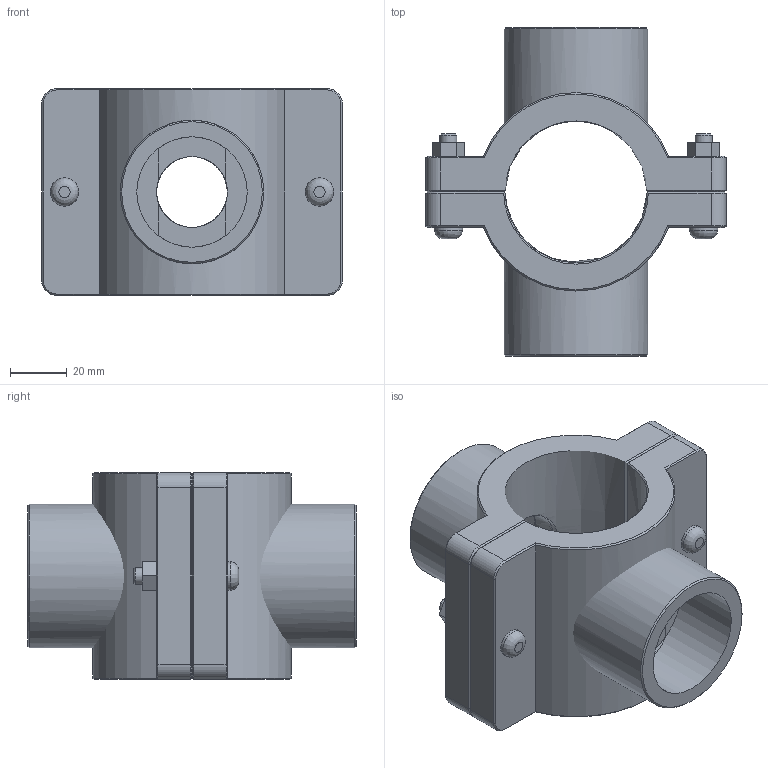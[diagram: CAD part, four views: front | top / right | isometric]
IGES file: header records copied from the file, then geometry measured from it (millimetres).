
Global section: file name: 161760050013_161860050013.ipt; native system: Autodesk Inventor 2015; preprocessor: unknown; author: KIM; date: 20170618.093659; units: millimetre
Bounding box: 106 x 116 x 73 mm (x, y, z)
Volume: 267956.7 mm3; surface area: 72557.8 mm2
Topology: 3 solids, 3 shells, 131 faces, 307 edges, 192 vertices
Faces by surface type: plane 70, cone 24, revolution 19, cylinder 18
Full cylindrical faces by diameter (mm): 6 x2, 10 x4, 50.638 x2
